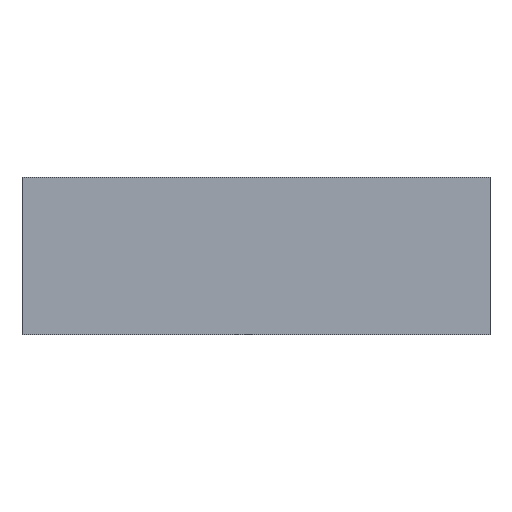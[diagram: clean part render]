
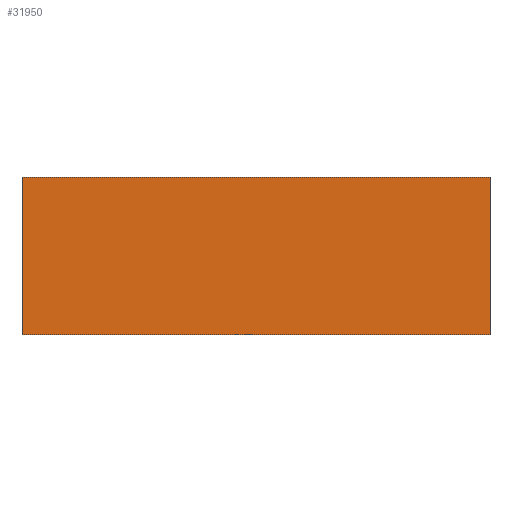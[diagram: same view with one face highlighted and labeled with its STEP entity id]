
A CAD part, front view. The second image highlights one B-rep face of the part: STEP entity #31950.
In plain terms, the highlighted planar face has unit normal (0, -1, 0).
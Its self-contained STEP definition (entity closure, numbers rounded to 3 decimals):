
#2835 = EDGE_CURVE ( 'NONE', #18436, #39267, #27035, .T. ) ;
#3385 = DIRECTION ( 'NONE',  ( 0., 1., 0. ) ) ;
#6046 = DIRECTION ( 'NONE',  ( 1., 0., 0. ) ) ;
#6702 = CARTESIAN_POINT ( 'NONE',  ( -400., -5.5, 135. ) ) ;
#6790 = CARTESIAN_POINT ( 'NONE',  ( -400., -5.5, -135. ) ) ;
#7360 = CARTESIAN_POINT ( 'NONE',  ( 400., -5.5, 135. ) ) ;
#11697 = EDGE_CURVE ( 'NONE', #39267, #44146, #18214, .T. ) ;
#15398 = LINE ( 'NONE', #30121, #46875 ) ;
#17523 = AXIS2_PLACEMENT_3D ( 'NONE', #6702, #3385, #41920 ) ;
#18214 = LINE ( 'NONE', #6790, #21721 ) ;
#18436 = VERTEX_POINT ( 'NONE', #40624 ) ;
#18540 = DIRECTION ( 'NONE',  ( 0., 0., -1. ) ) ;
#19007 = EDGE_CURVE ( 'NONE', #18436, #42068, #15398, .T. ) ;
#19575 = CARTESIAN_POINT ( 'NONE',  ( -400., -5.5, -135. ) ) ;
#19917 = EDGE_CURVE ( 'NONE', #42068, #44146, #25641, .T. ) ;
#21721 = VECTOR ( 'NONE', #6046, 1000. ) ;
#25641 = LINE ( 'NONE', #45158, #38052 ) ;
#27035 = LINE ( 'NONE', #31320, #43639 ) ;
#30034 = CARTESIAN_POINT ( 'NONE',  ( 400., -5.5, -135. ) ) ;
#30121 = CARTESIAN_POINT ( 'NONE',  ( -400., -5.5, 135. ) ) ;
#30735 = EDGE_LOOP ( 'NONE', ( #31250, #43737, #44549, #36292 ) ) ;
#31250 = ORIENTED_EDGE ( 'NONE', *, *, #11697, .T. ) ;
#31320 = CARTESIAN_POINT ( 'NONE',  ( -400., -5.5, 135. ) ) ;
#31950 = ADVANCED_FACE ( 'NONE', ( #34562 ), #41436, .F. ) ;
#34562 = FACE_OUTER_BOUND ( 'NONE', #30735, .T. ) ;
#36292 = ORIENTED_EDGE ( 'NONE', *, *, #2835, .T. ) ;
#38052 = VECTOR ( 'NONE', #18540, 1000. ) ;
#39267 = VERTEX_POINT ( 'NONE', #19575 ) ;
#40624 = CARTESIAN_POINT ( 'NONE',  ( -400., -5.5, 135. ) ) ;
#41436 = PLANE ( 'NONE',  #17523 ) ;
#41920 = DIRECTION ( 'NONE',  ( 0., 0., 1. ) ) ;
#42068 = VERTEX_POINT ( 'NONE', #7360 ) ;
#43639 = VECTOR ( 'NONE', #46042, 1000. ) ;
#43737 = ORIENTED_EDGE ( 'NONE', *, *, #19917, .F. ) ;
#44146 = VERTEX_POINT ( 'NONE', #30034 ) ;
#44549 = ORIENTED_EDGE ( 'NONE', *, *, #19007, .F. ) ;
#45158 = CARTESIAN_POINT ( 'NONE',  ( 400., -5.5, 135. ) ) ;
#46042 = DIRECTION ( 'NONE',  ( 0., 0., -1. ) ) ;
#46087 = DIRECTION ( 'NONE',  ( 1., 0., 0. ) ) ;
#46875 = VECTOR ( 'NONE', #46087, 1000. ) ;
